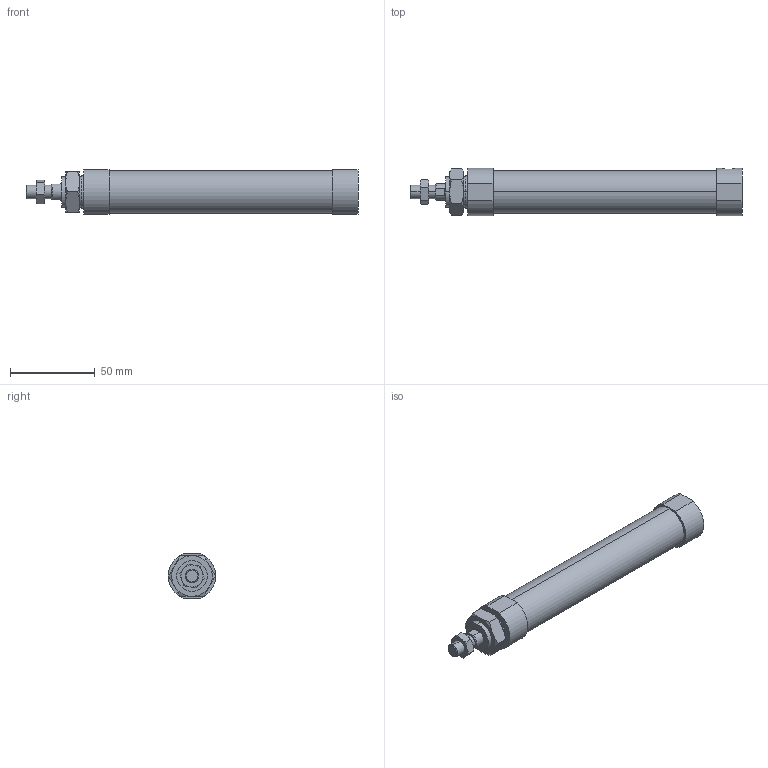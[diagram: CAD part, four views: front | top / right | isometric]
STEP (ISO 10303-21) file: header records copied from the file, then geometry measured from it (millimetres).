
FILE_DESCRIPTION (( 'STEP AP203' ), '1' );
FILE_NAME ('JGND1-20-50-N.STEP', '2016-08-04T02:15:02', ( '' ), ( '' ), 'SwSTEP 2.0', 'SolidWorks 2014', '' );
FILE_SCHEMA (( 'CONFIG_CONTROL_DESIGN' ));
Length unit declared in the file: millimetre
Products named in the file (4): J#1-20-50(P); JGND1-20-50-N
Assembly tree (3 placements, depth 2):
  JGND1-20-50-N
    J#1-20-50(P)
    (unnamed)
    (unnamed)
Bounding box: 196 x 28 x 26 mm (x, y, z)
Volume: 89442.8 mm3; surface area: 18213.4 mm2
Topology: 3 solids, 3 shells, 81 faces, 176 edges, 108 vertices
Faces by surface type: plane 33, torus 24, cylinder 20, cone 4
Entity records: 2900 total; most frequent: CARTESIAN_POINT 761, DIRECTION 366, ORIENTED_EDGE 352, EDGE_CURVE 176, AXIS2_PLACEMENT_3D 157, VERTEX_POINT 108, EDGE_LOOP 92, ADVANCED_FACE 81
